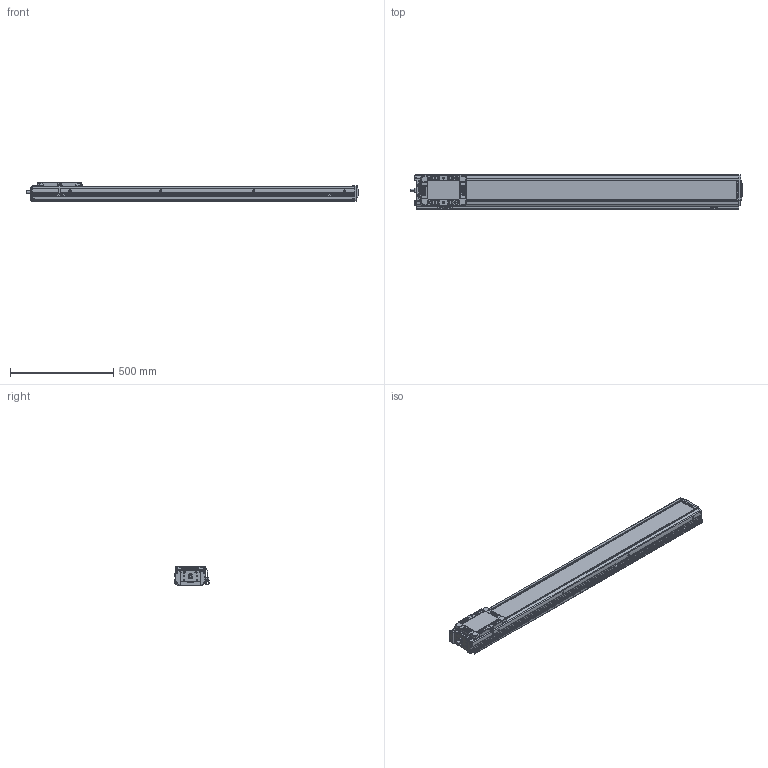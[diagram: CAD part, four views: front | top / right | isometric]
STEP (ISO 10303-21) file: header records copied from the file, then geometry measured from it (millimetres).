
FILE_DESCRIPTION(('STEP AP214'),'1');
FILE_NAME('Z:/Web/3D/SAN150/2013.04 (STP.)/SAN150ㅁㅁ-1300+3SR.stp','2013-05-07T08:30:50',(' '),(' '),'Spatial InterOp 3D',' ',' ');
FILE_SCHEMA(('automotive_design'));
Length unit declared in the file: millimetre
Products named in the file (57): M3.0 x 6.0; SRL-16x17-360L; SGD-SAN150; EE-SX674; SBK-SX674-352; 스크루 : Round - M3.0 x 6.0; BHCS M4.0 x 10.0; SLBL-SAN150; SLCV-SAN150; FHCS M4.0 x 8.0; SFX-SAN150; RRCV-SAN150; FRBL-SAN150; Spacer; RN15; FRCV-SAN150; Screw 20; BASE-SAN150-000L ; SUS COVER; 스크루 : Round - M5.0 x 6.0
Bounding box: 1608 x 166 x 90 mm (x, y, z)
Volume: 8348834.8 mm3; surface area: 1689035.2 mm2
Topology: 57 solids, 57 shells, 2774 faces, 7153 edges, 4582 vertices
Faces by surface type: plane 1404, cylinder 931, cone 330, sphere 76, bspline 21, torus 12
Entity records: 110531 total; most frequent: CARTESIAN_POINT 18152, DIRECTION 15110, ORIENTED_EDGE 14034, EDGE_CURVE 7017, AXIS2_PLACEMENT_3D 5407, VERTEX_POINT 4582, LINE 4296, VECTOR 4296
